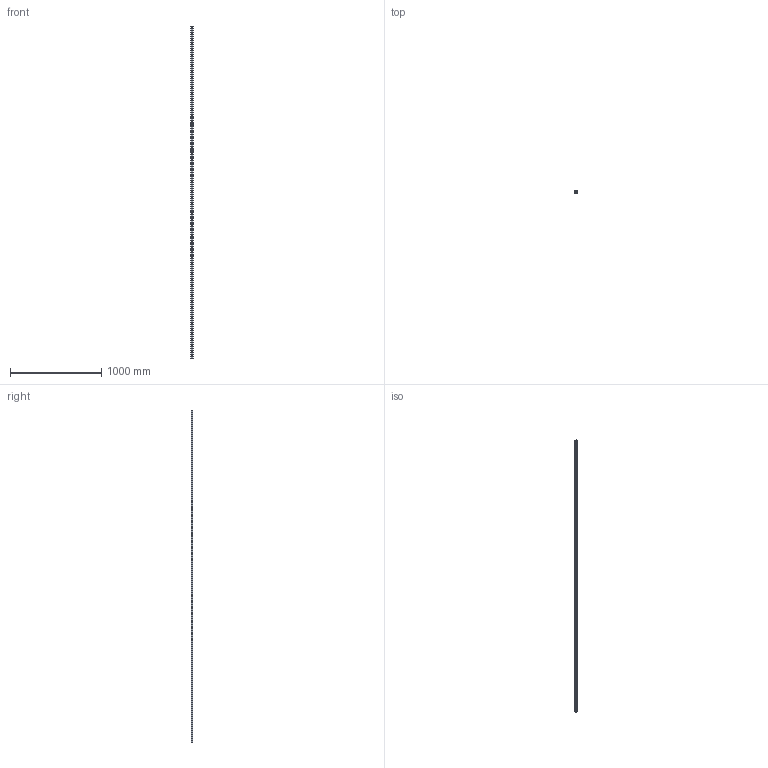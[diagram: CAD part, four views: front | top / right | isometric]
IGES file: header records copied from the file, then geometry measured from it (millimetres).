
Start section: SolidWorks IGES file using analytic representation for surfaces
Global section: file name: C:\Users\IanO\Desktop\L1016_v2\L1016.BL25_v2\L1016.BL25_v2_20160611_IGES\L1016.BL25-3640.igs; native system: SolidWorks 2017; preprocessor: SolidWorks 2017; author: IanO; date: 190612.131618; units: millimetre
Bounding box: 23 x 19.2 x 3640 mm (x, y, z)
Surface area: 344191.4 mm2 (no closed solid volume)
Topology: 0 solids, 0 shells, 331 faces, 8952 edges, 8952 vertices
Faces by surface type: revolution 248, bspline 83
